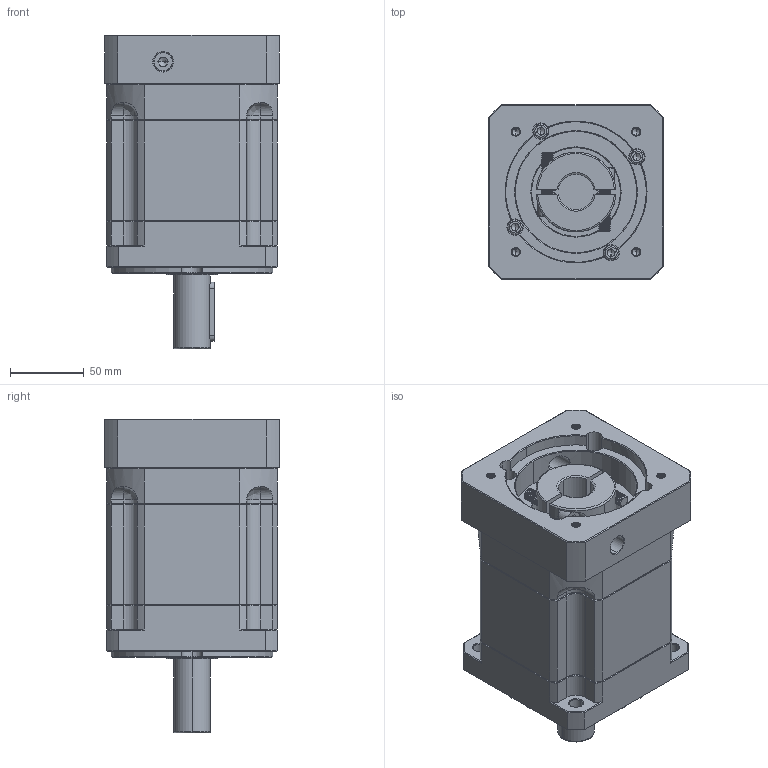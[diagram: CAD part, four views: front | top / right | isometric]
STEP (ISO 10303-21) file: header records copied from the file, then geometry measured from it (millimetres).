
FILE_DESCRIPTION (( 'STEP AP214' ), '1' );
FILE_NAME ('ZB115A-D25-L2-P2-24-95-115-M6.step', '2023-08-26T06:24:10', ( '' ), ( '' ), 'SwSTEP 2.0', 'SolidWorks 2016', '' );
FILE_SCHEMA (( 'AUTOMOTIVE_DESIGN' ));
Length unit declared in the file: millimetre
Products named in the file (1): ZB115A-D25-L2-P2-24-95-115-M6
Bounding box: 118 x 118 x 212 mm (x, y, z)
Volume: 1792992 mm3; surface area: 173461 mm2
Topology: 6 solids, 6 shells, 2398 faces, 6303 edges, 4001 vertices
Faces by surface type: plane 1144, cylinder 440, bspline 423, cone 371, torus 20
Entity records: 128766 total; most frequent: CARTESIAN_POINT 46786, ORIENTED_EDGE 12538, DIRECTION 9956, EDGE_CURVE 6269, VERTEX_POINT 4001, VECTOR 3992, LINE 3992, AXIS2_PLACEMENT_3D 2982
